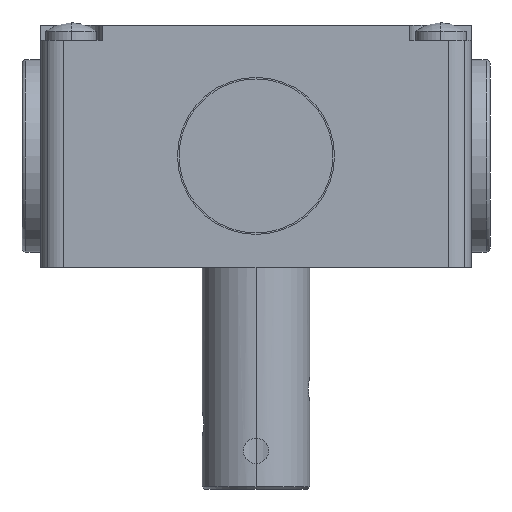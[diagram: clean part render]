
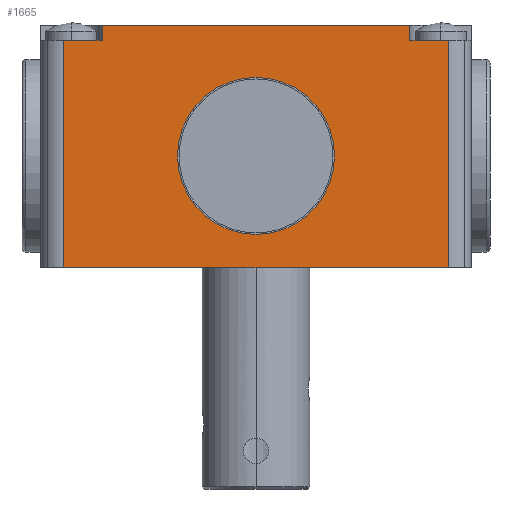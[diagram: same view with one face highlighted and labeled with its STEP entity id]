
A CAD part, front view. The second image highlights one B-rep face of the part: STEP entity #1665.
In plain terms, the highlighted planar face has unit normal (0, -1, 0).
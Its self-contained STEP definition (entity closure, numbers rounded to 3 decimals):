
#19 = CARTESIAN_POINT ( 'NONE',  ( 20., -56.8, 15. ) ) ;
#82 = CARTESIAN_POINT ( 'NONE',  ( -25., -56.8, 17. ) ) ;
#463 = LINE ( 'NONE', #1221, #3590 ) ;
#793 = CARTESIAN_POINT ( 'NONE',  ( 25., -56.8, -14.5 ) ) ;
#1039 = VERTEX_POINT ( 'NONE', #13102 ) ;
#1094 = LINE ( 'NONE', #82, #7794 ) ;
#1221 = CARTESIAN_POINT ( 'NONE',  ( -28., -56.8, 15. ) ) ;
#1327 = CARTESIAN_POINT ( 'NONE',  ( 28., -56.8, 15. ) ) ;
#1434 = DIRECTION ( 'NONE',  ( 1., 0., 0. ) ) ;
#1529 = AXIS2_PLACEMENT_3D ( 'NONE', #7865, #17356, #9215 ) ;
#1530 = VECTOR ( 'NONE', #10720, 1000. ) ;
#1544 = CARTESIAN_POINT ( 'NONE',  ( 20., -56.8, 15. ) ) ;
#1615 = LINE ( 'NONE', #10040, #8313 ) ;
#1665 = ADVANCED_FACE ( 'NONE', ( #4004, #3588 ), #7375, .T. ) ;
#1709 = CIRCLE ( 'NONE', #16678, 10.2 ) ;
#1971 = LINE ( 'NONE', #1327, #1530 ) ;
#3188 = LINE ( 'NONE', #3340, #7145 ) ;
#3340 = CARTESIAN_POINT ( 'NONE',  ( -25., -56.8, -14.5 ) ) ;
#3588 = FACE_OUTER_BOUND ( 'NONE', #17434, .T. ) ;
#3590 = VECTOR ( 'NONE', #9243, 1000. ) ;
#3670 = DIRECTION ( 'NONE',  ( 0., -1., 0. ) ) ;
#3686 = VECTOR ( 'NONE', #12651, 1000. ) ;
#4004 = FACE_BOUND ( 'NONE', #8717, .T. ) ;
#4099 = LINE ( 'NONE', #4560, #3686 ) ;
#4493 = CIRCLE ( 'NONE', #1529, 10.2 ) ;
#4514 = VERTEX_POINT ( 'NONE', #19 ) ;
#4560 = CARTESIAN_POINT ( 'NONE',  ( -25., -56.8, -14.5 ) ) ;
#4683 = CARTESIAN_POINT ( 'NONE',  ( -25., -56.8, 15. ) ) ;
#4716 = AXIS2_PLACEMENT_3D ( 'NONE', #10083, #12837, #4741 ) ;
#4741 = DIRECTION ( 'NONE',  ( 0., 0., -1. ) ) ;
#4745 = CARTESIAN_POINT ( 'NONE',  ( 20., -56.8, 17. ) ) ;
#5378 = ORIENTED_EDGE ( 'NONE', *, *, #15147, .F. ) ;
#6201 = VERTEX_POINT ( 'NONE', #9520 ) ;
#6305 = CARTESIAN_POINT ( 'NONE',  ( 0., -56.8, -10.2 ) ) ;
#6517 = VECTOR ( 'NONE', #16418, 1000. ) ;
#6532 = CARTESIAN_POINT ( 'NONE',  ( 25., -56.8, -14.5 ) ) ;
#6536 = EDGE_CURVE ( 'NONE', #12084, #7419, #4493, .T. ) ;
#6571 = VECTOR ( 'NONE', #12356, 1000. ) ;
#6606 = ORIENTED_EDGE ( 'NONE', *, *, #9049, .F. ) ;
#6879 = CARTESIAN_POINT ( 'NONE',  ( 0., -56.8, 10.2 ) ) ;
#7145 = VECTOR ( 'NONE', #12771, 1000. ) ;
#7358 = EDGE_CURVE ( 'NONE', #11280, #4514, #1971, .T. ) ;
#7375 = PLANE ( 'NONE',  #4716 ) ;
#7419 = VERTEX_POINT ( 'NONE', #6879 ) ;
#7497 = ORIENTED_EDGE ( 'NONE', *, *, #6536, .F. ) ;
#7794 = VECTOR ( 'NONE', #1434, 1000. ) ;
#7865 = CARTESIAN_POINT ( 'NONE',  ( 0., -56.8, 0. ) ) ;
#8046 = EDGE_CURVE ( 'NONE', #1039, #14575, #1094, .T. ) ;
#8145 = EDGE_CURVE ( 'NONE', #4514, #14575, #17349, .T. ) ;
#8313 = VECTOR ( 'NONE', #11411, 1000. ) ;
#8717 = EDGE_LOOP ( 'NONE', ( #7497, #5378 ) ) ;
#9049 = EDGE_CURVE ( 'NONE', #6201, #10680, #3188, .T. ) ;
#9215 = DIRECTION ( 'NONE',  ( 0., 0., -1. ) ) ;
#9243 = DIRECTION ( 'NONE',  ( 1., 0., 0. ) ) ;
#9468 = ORIENTED_EDGE ( 'NONE', *, *, #10670, .F. ) ;
#9472 = CARTESIAN_POINT ( 'NONE',  ( -20., -56.8, 15. ) ) ;
#9520 = CARTESIAN_POINT ( 'NONE',  ( -25., -56.8, -14.5 ) ) ;
#9805 = ORIENTED_EDGE ( 'NONE', *, *, #7358, .T. ) ;
#10040 = CARTESIAN_POINT ( 'NONE',  ( -20., -56.8, 15. ) ) ;
#10083 = CARTESIAN_POINT ( 'NONE',  ( -25., -56.8, -14.5 ) ) ;
#10669 = ORIENTED_EDGE ( 'NONE', *, *, #11142, .T. ) ;
#10670 = EDGE_CURVE ( 'NONE', #11471, #1039, #1615, .T. ) ;
#10680 = VERTEX_POINT ( 'NONE', #4683 ) ;
#10720 = DIRECTION ( 'NONE',  ( -1., 0., 0. ) ) ;
#10900 = ORIENTED_EDGE ( 'NONE', *, *, #8046, .F. ) ;
#11142 = EDGE_CURVE ( 'NONE', #6201, #16386, #4099, .T. ) ;
#11280 = VERTEX_POINT ( 'NONE', #15644 ) ;
#11411 = DIRECTION ( 'NONE',  ( 0., 0., 1. ) ) ;
#11471 = VERTEX_POINT ( 'NONE', #9472 ) ;
#11759 = CARTESIAN_POINT ( 'NONE',  ( 0., -56.8, 0. ) ) ;
#12084 = VERTEX_POINT ( 'NONE', #6305 ) ;
#12356 = DIRECTION ( 'NONE',  ( 0., 0., 1. ) ) ;
#12651 = DIRECTION ( 'NONE',  ( 1., 0., 0. ) ) ;
#12771 = DIRECTION ( 'NONE',  ( 0., 0., 1. ) ) ;
#12837 = DIRECTION ( 'NONE',  ( 0., -1., 0. ) ) ;
#12915 = EDGE_CURVE ( 'NONE', #16386, #11280, #17404, .T. ) ;
#13102 = CARTESIAN_POINT ( 'NONE',  ( -20., -56.8, 17. ) ) ;
#13112 = DIRECTION ( 'NONE',  ( 0., 0., -1. ) ) ;
#14063 = ORIENTED_EDGE ( 'NONE', *, *, #8145, .T. ) ;
#14575 = VERTEX_POINT ( 'NONE', #4745 ) ;
#14727 = EDGE_CURVE ( 'NONE', #10680, #11471, #463, .T. ) ;
#15147 = EDGE_CURVE ( 'NONE', #7419, #12084, #1709, .T. ) ;
#15591 = ORIENTED_EDGE ( 'NONE', *, *, #12915, .T. ) ;
#15644 = CARTESIAN_POINT ( 'NONE',  ( 25., -56.8, 15. ) ) ;
#16141 = ORIENTED_EDGE ( 'NONE', *, *, #14727, .F. ) ;
#16386 = VERTEX_POINT ( 'NONE', #793 ) ;
#16418 = DIRECTION ( 'NONE',  ( 0., 0., 1. ) ) ;
#16678 = AXIS2_PLACEMENT_3D ( 'NONE', #11759, #3670, #13112 ) ;
#17349 = LINE ( 'NONE', #1544, #6517 ) ;
#17356 = DIRECTION ( 'NONE',  ( 0., -1., 0. ) ) ;
#17404 = LINE ( 'NONE', #6532, #6571 ) ;
#17434 = EDGE_LOOP ( 'NONE', ( #10669, #15591, #9805, #14063, #10900, #9468, #16141, #6606 ) ) ;
